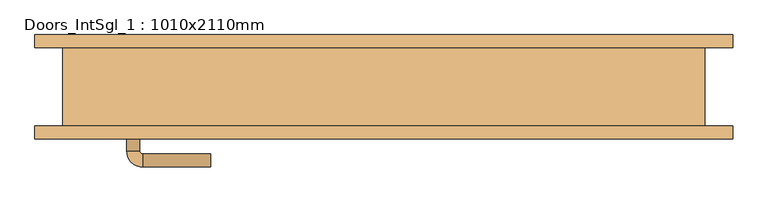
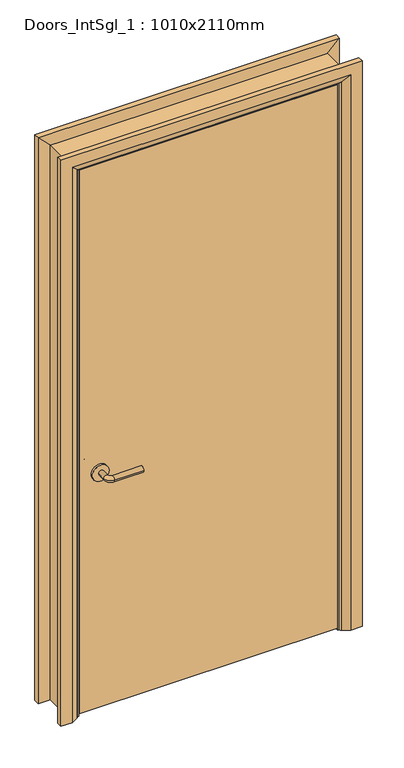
"""IFC4 building model written with IfcOpenShell, lengths in millimetres: door geometry, Doors_IntSgl_1 : 1010x2110mm."""

import ifcopenshell
import ifcopenshell.guid

model = None  # the IFC model being written
_history = None  # IfcOwnerHistory: only IFC2X3 demands one
_inside = {}  # id of a spatial element -> (the spatial element, [elements in it])
_under = {}  # id of a project, library or spatial element -> (it, [spatial elements below it])
_declared = {}  # id of a project -> (the project, [libraries it declares])
_typed = {}  # id of a type object -> (the type object, [elements of that type])
_made_of = {}  # id of a material, layer set ... -> (it, [elements and type objects made of it])


def new_model(schema):
    """Start an empty IFC model of exactly this schema.

    Asked for "IFC4X3", IfcOpenShell would pick the latest addendum, in which some entities
    have other attributes; the version numbers below select the first issue.
    IFC2X3 requires an IfcOwnerHistory on every rooted entity: one is made here for all.
    """
    global model, _history
    if schema == "IFC4X3":
        model = ifcopenshell.file(schema_version=(4, 3, 0, 0))
    else:
        model = ifcopenshell.file(schema=schema)
    _inside.clear()
    _under.clear()
    _declared.clear()
    _typed.clear()
    _made_of.clear()
    _history = None
    if model.schema == "IFC2X3":
        org = make("IfcOrganization", Name="unknown")
        user = make(
            "IfcPersonAndOrganization",
            ThePerson=make("IfcPerson", FamilyName="unknown"),
            TheOrganization=org,
        )
        app = make(
            "IfcApplication",
            ApplicationDeveloper=org,
            Version="unknown",
            ApplicationFullName="unknown",
            ApplicationIdentifier="unknown",
        )
        _history = make(
            "IfcOwnerHistory",
            OwningUser=user,
            OwningApplication=app,
            ChangeAction="ADDED",
            CreationDate=0,
        )
    return model


def make(cls, **values):
    """One entity of the class cls with the attributes given. An attribute that is None is left unset."""
    return model.create_entity(
        cls, **{name: value for name, value in values.items() if value is not None}
    )


def rooted(cls, **values):
    """An entity with a GlobalId (a new one), such as an element, a storey or a relation."""
    return make(cls, GlobalId=ifcopenshell.guid.new(), OwnerHistory=_history, **values)


def si_unit(unit_type, name, prefix=None):
    """IfcSIUnit, for example si_unit("LENGTHUNIT", "METRE", prefix="MILLI")."""
    return make("IfcSIUnit", UnitType=unit_type, Prefix=prefix, Name=name)


def assignment(units):
    """IfcUnitAssignment: the units of a project."""
    return None if units is None else make("IfcUnitAssignment", Units=units)


def point(xyz):
    """IfcCartesianPoint."""
    return None if xyz is None else make("IfcCartesianPoint", Coordinates=xyz)


def direction(xyz):
    """IfcDirection."""
    return None if xyz is None else make("IfcDirection", DirectionRatios=xyz)


def frame(location, z_axis=None, x_axis=None):
    """IfcAxis2Placement3D, a coordinate frame: its origin and axes. An axis left out is left unset."""
    return make(
        "IfcAxis2Placement3D",
        Location=point(location),
        Axis=direction(z_axis),
        RefDirection=direction(x_axis),
    )


def frame_2d(location, x_axis=None):
    """IfcAxis2Placement2D, a coordinate frame in the plane: its origin and x axis."""
    return make(
        "IfcAxis2Placement2D", Location=point(location), RefDirection=direction(x_axis)
    )


def origin():
    """The frame at (0, 0, 0) with its axes left unset."""
    return frame((0.0, 0.0, 0.0))


def place(relative_to, where):
    """IfcLocalPlacement: puts the frame where relative to a parent placement (None: the world)."""
    return make(
        "IfcLocalPlacement", PlacementRelTo=relative_to, RelativePlacement=where
    )


def context(
    kind, dimensions, precision=None, world=None, true_north=None, identifier=None
):
    """IfcGeometricRepresentationContext, for example the 3D "Model" context."""
    return make(
        "IfcGeometricRepresentationContext",
        ContextIdentifier=identifier,
        ContextType=kind,
        CoordinateSpaceDimension=dimensions,
        Precision=precision,
        WorldCoordinateSystem=world,
        TrueNorth=true_north,
    )


def project(units=None, contexts=None):
    """IfcProject with its units and contexts."""
    return rooted(
        "IfcProject",
        Name="project",
        RepresentationContexts=contexts,
        UnitsInContext=assignment(units),
    )


def spatial(cls, under=None, at=None, **own):
    """A site, building, storey or space (cls), placed at a placement, below another one or the project."""
    s = rooted(cls, ObjectPlacement=at, **own)
    if under is not None:
        _under.setdefault(under.id(), (under, []))[1].append(s)
    return s


def polyline(points):
    """IfcPolyline through the points."""
    return make("IfcPolyline", Points=[point(p) for p in points])


def circle_curve(where, radius):
    """IfcCircle in the frame where."""
    return make("IfcCircle", Position=where, Radius=radius)


def ellipse_curve(where, semi_axis1, semi_axis2):
    """IfcEllipse in the frame where."""
    return make(
        "IfcEllipse", Position=where, SemiAxis1=semi_axis1, SemiAxis2=semi_axis2
    )


def trimmed(basis, trim1, trim2, sense, master):
    """IfcTrimmedCurve: the piece of a basis curve between two trims."""
    return make(
        "IfcTrimmedCurve",
        BasisCurve=basis,
        Trim1=trim1,
        Trim2=trim2,
        SenseAgreement=sense,
        MasterRepresentation=master,
    )


def segment(curve, same_sense, transition):
    """IfcCompositeCurveSegment."""
    return make(
        "IfcCompositeCurveSegment",
        Transition=transition,
        SameSense=same_sense,
        ParentCurve=curve,
    )


def composite_curve(segments, self_intersect=None):
    """IfcCompositeCurve: segments joined end to end."""
    return make("IfcCompositeCurve", Segments=segments, SelfIntersect=self_intersect)


def outline(outer, holes=None, kind="AREA"):
    """IfcArbitraryClosedProfileDef: a profile drawn as a closed curve; with holes, ...WithVoids."""
    if holes is None:
        return make("IfcArbitraryClosedProfileDef", ProfileType=kind, OuterCurve=outer)
    return make(
        "IfcArbitraryProfileDefWithVoids",
        ProfileType=kind,
        OuterCurve=outer,
        InnerCurves=holes,
    )


def extrude(swept, where, along, depth):
    """IfcExtrudedAreaSolid: the profile swept, set in the frame where, extruded along a direction by depth."""
    return make(
        "IfcExtrudedAreaSolid",
        SweptArea=swept,
        Position=where,
        ExtrudedDirection=direction(along),
        Depth=depth,
    )


def faces_of(points, faces, orient=None, outer=None):
    """IfcFace entities. A face is a list of loops; a loop is a list of indices into points, from 0.

    orient and outer hold one flag for each loop. By default every Orientation is true, the
    first loop of a face is its IfcFaceOuterBound and the others are IfcFaceBound.
    """
    made = []
    for i, loops in enumerate(faces):
        bounds = []
        for j, loop in enumerate(loops):
            is_outer = j == 0 if outer is None else outer[i][j]
            bounds.append(
                make(
                    "IfcFaceOuterBound" if is_outer else "IfcFaceBound",
                    Bound=make("IfcPolyLoop", Polygon=[points[k] for k in loop]),
                    Orientation=True if orient is None else orient[i][j],
                )
            )
        made.append(make("IfcFace", Bounds=bounds))
    return made


def faceted_brep(points, faces, orient=None, outer=None, voids=None):
    """IfcFacetedBrep: a solid bounded by flat faces; with voids (closed shells), ...WithVoids."""
    shared = [point(p) for p in points]
    hull = make("IfcClosedShell", CfsFaces=faces_of(shared, faces, orient, outer))
    if voids is None:
        return make("IfcFacetedBrep", Outer=hull)
    return make(
        "IfcFacetedBrepWithVoids",
        Outer=hull,
        Voids=[
            make(cls, CfsFaces=faces_of(shared, fs, o, b)) for cls, fs, o, b in voids
        ],
    )


def shape(context_of_items, identifier, shape_type, items):
    """IfcShapeRepresentation: the items that make up one representation, for example the "Body"."""
    return make(
        "IfcShapeRepresentation",
        ContextOfItems=context_of_items,
        RepresentationIdentifier=identifier,
        RepresentationType=shape_type,
        Items=items,
    )


def source(mapping_origin, context_of_items, identifier, shape_type, items):
    """IfcRepresentationMap: a shape defined once, which mapped items show again and again."""
    return make(
        "IfcRepresentationMap",
        MappingOrigin=mapping_origin,
        MappedRepresentation=shape(context_of_items, identifier, shape_type, items),
    )


def transform(
    local_origin,
    x_axis=None,
    y_axis=None,
    z_axis=None,
    scale=None,
    scale2=None,
    scale3=None,
    uniform=True,
):
    """IfcCartesianTransformationOperator3D, or its non-uniform kind. x_axis, y_axis, z_axis: its Axis1, 2, 3."""
    if uniform:
        return make(
            "IfcCartesianTransformationOperator3D",
            Axis1=direction(x_axis),
            Axis2=direction(y_axis),
            LocalOrigin=point(local_origin),
            Scale=scale,
            Axis3=direction(z_axis),
        )
    return make(
        "IfcCartesianTransformationOperator3DnonUniform",
        Axis1=direction(x_axis),
        Axis2=direction(y_axis),
        LocalOrigin=point(local_origin),
        Scale=scale,
        Axis3=direction(z_axis),
        Scale2=scale2,
        Scale3=scale3,
    )


def mapped(mapping_source, mapping_target):
    """IfcMappedItem: shows the shape of a source again, moved by a transform."""
    return make(
        "IfcMappedItem", MappingSource=mapping_source, MappingTarget=mapping_target
    )


def made_of(thing, what):
    """Note that an element or type object is made of a material, layer set ...; save() writes the relation."""
    if what is not None:
        _made_of.setdefault(what.id(), (what, []))[1].append(thing)
    return thing


def element(
    cls,
    number,
    at=None,
    inside=None,
    cuts=None,
    type_object=None,
    material=None,
    context=None,
    identifier="Body",
    shape_type=None,
    held_by="IfcProductDefinitionShape",
    body=None,
    shapes=None,
    **own,
):
    """One element of the class cls, such as IfcWall. Its Tag is "e" and its number.

    at: its placement. inside: the storey or other place that contains it. cuts: it is an
    opening in that element (IfcRelVoidsElement). A single representation is given by context,
    identifier, shape_type and body (its items); several are given by shapes. held_by: the class
    of the entity that holds the representations. save() writes the other relations.
    """
    e = rooted(cls, Tag="e%d" % number, ObjectPlacement=at, **own)
    if body is not None:
        shapes = [shape(context, identifier, shape_type, body)]
    if shapes is not None:
        e.Representation = make(held_by, Representations=shapes)
    if inside is not None:
        _inside.setdefault(inside.id(), (inside, []))[1].append(e)
    if cuts is not None:
        rooted(
            "IfcRelVoidsElement", RelatingBuildingElement=cuts, RelatedOpeningElement=e
        )
    if type_object is not None:
        _typed.setdefault(type_object.id(), (type_object, []))[1].append(e)
    return made_of(e, material)


def aggregate(whole, parts):
    """IfcRelAggregates: a whole, such as a stair, and the parts it consists of."""
    return rooted("IfcRelAggregates", RelatingObject=whole, RelatedObjects=parts)


def save(model, path):
    """Write the relations noted so far, then the file.

    IfcRelAggregates (storeys below a building ...), IfcRelContainedInSpatialStructure (elements
    in a storey), IfcRelDefinesByType, IfcRelAssociatesMaterial and IfcRelDeclares: one each for
    every whole, place, type object, material and project.
    """
    for whole, parts in _under.values():
        aggregate(whole, parts)
    for where, things in _inside.values():
        rooted(
            "IfcRelContainedInSpatialStructure",
            RelatedElements=things,
            RelatingStructure=where,
        )
    for kind, things in _typed.values():
        rooted("IfcRelDefinesByType", RelatedObjects=things, RelatingType=kind)
    for what, things in _made_of.values():
        rooted("IfcRelAssociatesMaterial", RelatedObjects=things, RelatingMaterial=what)
    for by, libraries in _declared.values():
        rooted("IfcRelDeclares", RelatingContext=by, RelatedDefinitions=libraries)
    model.write(path)


def plane_surface(at):
    """IfcPlane: the flat surface through the origin of the frame at, square to its z axis."""
    return make("IfcPlane", Position=at)


def cylinder_surface(at, radius):
    """IfcCylindricalSurface: all points at the distance radius from the z axis of the frame at."""
    return make("IfcCylindricalSurface", Position=at, Radius=radius)


def revolved_surface(curve, axis_point, axis_direction):
    """IfcSurfaceOfRevolution: the curve turned about the line through axis_point along axis_direction."""
    return make(
        "IfcSurfaceOfRevolution",
        SweptCurve=make("IfcArbitraryOpenProfileDef", ProfileType="CURVE", Curve=curve),
        AxisPosition=make("IfcAxis1Placement", Location=point(axis_point), Axis=direction(axis_direction)),
    )


def advanced_brep(points, edges, surfaces, faces):
    """IfcAdvancedBrep: a solid bounded by faces that lie on surfaces and meet in shared edges.

    An edge is (start, end): straight between two places in points (the first is 0);
    or (start, end, curve); or (start, end, curve, False) where it runs against its curve.
    A face is (place in surfaces, loops), or (place, loops, False) where it looks against
    its surface's normal. A loop lists edges by number (the first is 1), with a minus sign
    where the edge is run from its end to its start. The first loop is the outer one.
    """
    corners = [point(p) for p in points]
    vertices = [make("IfcVertexPoint", VertexGeometry=c) for c in corners]
    made = []
    for start, end, *more in edges:
        made.append(
            make(
                "IfcEdgeCurve",
                EdgeStart=vertices[start],
                EdgeEnd=vertices[end],
                EdgeGeometry=more[0] if more else make("IfcPolyline", Points=[corners[start], corners[end]]),
                SameSense=more[1] if len(more) > 1 else True,
            )
        )
    hull = []
    for where, loops, *sense in faces:
        bounds = []
        for j, loop in enumerate(loops):
            ring = [make("IfcOrientedEdge", EdgeElement=made[abs(k) - 1], Orientation=k > 0) for k in loop]
            bounds.append(
                make(
                    "IfcFaceOuterBound" if j == 0 else "IfcFaceBound",
                    Bound=make("IfcEdgeLoop", EdgeList=ring),
                    Orientation=True,
                )
            )
        hull.append(make("IfcAdvancedFace", Bounds=bounds, FaceSurface=surfaces[where], SameSense=sense[0] if sense else True))
    return make("IfcAdvancedBrep", Outer=make("IfcClosedShell", CfsFaces=hull))


def doors_intsgl_1_1010x2110mm_0e4fc7ca(model_context):
    return source(origin(), model_context, "Body", "SolidModel", [
        advanced_brep(
        [(-398.0, -14.75, 900.0), (-378.0, -14.75, 900.0), (-398.0, 15.25, 900.0), (-378.0, 15.25, 900.0), (-373.0, 20.25, 900.0), (-373.0, 40.25, 900.0), (-268.0, 40.25, 900.0), (-268.0, 20.25, 900.0)],
        [
            (0, 1, circle_curve(frame((-388.0, -14.75, 900.0), z_axis=(0.0, -1.0, 0.0), x_axis=(1.0, 0.0, 0.0)), 10.0)),
            (1, 0, circle_curve(frame((-388.0, -14.75, 900.0), z_axis=(0.0, -1.0, 0.0), x_axis=(1.0, 0.0, 0.0)), 10.0)),
            (0, 2),
            (2, 3, circle_curve(frame((-388.0, 15.25, 900.0), z_axis=(0.0, -1.0, 0.0), x_axis=(1.0, 0.0, 0.0)), 10.0)),
            (3, 1),
            (3, 2, circle_curve(frame((-388.0, 15.25, 900.0), z_axis=(0.0, -1.0, 0.0), x_axis=(1.0, 0.0, 0.0)), 10.0)),
            (4, 3, circle_curve(frame((-373.0, 15.25, 900.0), z_axis=(0.0, 0.0, 1.0), x_axis=(-1.0, 0.0, 0.0)), 5.0)),
            (2, 5, circle_curve(frame((-373.0, 15.25, 900.0), z_axis=(0.0, 0.0, -1.0), x_axis=(-1.0, 0.0, 0.0)), 25.0)),
            (5, 4, circle_curve(frame((-373.0, 30.25, 900.0), z_axis=(-1.0, 0.0, 0.0), x_axis=(0.0, -1.0, 0.0)), 10.0)),
            (4, 5, circle_curve(frame((-373.0, 30.25, 900.0), z_axis=(-1.0, 0.0, 0.0), x_axis=(0.0, -1.0, 0.0)), 10.0)),
            (6, 7, circle_curve(frame((-268.0, 30.25, 900.0), z_axis=(1.0, 0.0, 0.0), x_axis=(0.0, -1.0, 0.0)), 10.0)),
            (7, 6, circle_curve(frame((-268.0, 30.25, 900.0), z_axis=(1.0, 0.0, 0.0), x_axis=(0.0, -1.0, 0.0)), 10.0)),
            (5, 6),
            (7, 4),
        ],
        [
            plane_surface(frame((-388.0, -14.75, 900.0), z_axis=(0.0, -1.0, 0.0), x_axis=(0.0, 0.0, 1.0))),
            cylinder_surface(frame((-388.0, -14.75, 900.0), z_axis=(0.0, -1.0, 0.0), x_axis=(1.0, 0.0, 0.0)), 10.0),
            revolved_surface(trimmed(ellipse_curve(frame((-388.0, 15.25, 900.0), z_axis=(0.0, -1.0, 0.0), x_axis=(1.0, 0.0, 0.0)), 10.0, 10.0), [point((-398.0, 15.25, 900.0))], [point((-378.0, 15.25, 900.0))], True, "CARTESIAN"), (-373.0, 15.25, 900.0), (0.0, 0.0, -1.0)),
            revolved_surface(trimmed(ellipse_curve(frame((-388.0, 15.25, 900.0), z_axis=(0.0, -1.0, 0.0), x_axis=(1.0, 0.0, 0.0)), 10.0, 10.0), [point((-378.0, 15.25, 900.0))], [point((-398.0, 15.25, 900.0))], True, "CARTESIAN"), (-373.0, 15.25, 900.0), (0.0, 0.0, -1.0)),
            plane_surface(frame((-268.0, 30.25, 900.0), z_axis=(1.0, 0.0, 0.0), x_axis=(0.0, 0.0, 1.0))),
            cylinder_surface(frame((-373.0, 30.25, 900.0), z_axis=(-1.0, 0.0, 0.0), x_axis=(0.0, -1.0, 0.0)), 10.0),
        ],
        [
            (0, [[1, 2]]),
            (1, [[-1, 3, 4, 5]]),
            (1, [[-2, -5, 6, -3]]),
            (2, [[7, -4, 8, 9]]),
            (3, [[-8, -6, -7, 10]]),
            (4, [[11, 12]]),
            (5, [[-9, 13, -12, 14]]),
            (5, [[-10, -14, -11, -13]]),
        ],
    ),
        extrude(outline(composite_curve([segment(trimmed(circle_curve(frame_2d((900.0, -390.5)), 30.0), [point((900.0, -420.5))], [point((900.0, -360.5))], False, "CARTESIAN"), True, "CONTINUOUS"), segment(trimmed(circle_curve(frame_2d((900.0, -390.5)), 30.0), [point((900.0, -360.5))], [point((900.0, -420.5))], False, "CARTESIAN"), True, "CONTINUOUS")], self_intersect=False)), frame((0.0, -22.75, 0.0), z_axis=(0.0, 1.0, 0.0), x_axis=(0.0, 0.0, 1.0)), (0.0, 0.0, 1.0), 8.0),
        advanced_brep(
        [(-398.0, -68.75, 900.0), (-378.0, -68.75, 900.0), (-378.0, -98.75, 900.0), (-398.0, -98.75, 900.0), (-373.0, -103.75, 900.0), (-373.0, -123.75, 900.0), (-268.0, -123.75, 900.0), (-268.0, -103.75, 900.0)],
        [
            (0, 1, circle_curve(frame((-388.0, -68.75, 900.0), z_axis=(0.0, 1.0, 0.0), x_axis=(1.0, 0.0, 0.0)), 10.0)),
            (1, 0, circle_curve(frame((-388.0, -68.75, 900.0), z_axis=(0.0, 1.0, 0.0), x_axis=(1.0, 0.0, 0.0)), 10.0)),
            (1, 2),
            (2, 3, circle_curve(frame((-388.0, -98.75, 900.0), z_axis=(0.0, 1.0, 0.0), x_axis=(1.0, 0.0, 0.0)), 10.0)),
            (3, 0),
            (3, 2, circle_curve(frame((-388.0, -98.75, 900.0), z_axis=(0.0, 1.0, 0.0), x_axis=(1.0, 0.0, 0.0)), 10.0)),
            (4, 5, circle_curve(frame((-373.0, -113.75, 900.0), z_axis=(-1.0, 0.0, 0.0), x_axis=(0.0, 1.0, 0.0)), 10.0)),
            (5, 3, circle_curve(frame((-373.0, -98.75, 900.0), z_axis=(0.0, 0.0, -1.0), x_axis=(-1.0, 0.0, 0.0)), 25.0)),
            (2, 4, circle_curve(frame((-373.0, -98.75, 900.0), z_axis=(0.0, 0.0, 1.0), x_axis=(-1.0, 0.0, 0.0)), 5.0)),
            (5, 4, circle_curve(frame((-373.0, -113.75, 900.0), z_axis=(-1.0, 0.0, 0.0), x_axis=(0.0, 1.0, 0.0)), 10.0)),
            (6, 7, circle_curve(frame((-268.0, -113.75, 900.0), z_axis=(1.0, 0.0, 0.0), x_axis=(0.0, 1.0, 0.0)), 10.0)),
            (7, 6, circle_curve(frame((-268.0, -113.75, 900.0), z_axis=(1.0, 0.0, 0.0), x_axis=(0.0, 1.0, 0.0)), 10.0)),
            (4, 7),
            (6, 5),
        ],
        [
            plane_surface(frame((-388.0, -68.75, 900.0), z_axis=(0.0, 1.0, 0.0), x_axis=(0.0, 0.0, 1.0))),
            cylinder_surface(frame((-388.0, -68.75, 900.0), z_axis=(0.0, 1.0, 0.0), x_axis=(1.0, 0.0, 0.0)), 10.0),
            revolved_surface(trimmed(ellipse_curve(frame((-388.0, -98.75, 900.0), z_axis=(0.0, -1.0, 0.0), x_axis=(1.0, 0.0, 0.0)), 10.0, 10.0), [point((-398.0, -98.75, 900.0))], [point((-378.0, -98.75, 900.0))], True, "CARTESIAN"), (-373.0, -98.75, 900.0), (0.0, 0.0, -1.0)),
            revolved_surface(trimmed(ellipse_curve(frame((-388.0, -98.75, 900.0), z_axis=(0.0, -1.0, 0.0), x_axis=(1.0, 0.0, 0.0)), 10.0, 10.0), [point((-378.0, -98.75, 900.0))], [point((-398.0, -98.75, 900.0))], True, "CARTESIAN"), (-373.0, -98.75, 900.0), (0.0, 0.0, -1.0)),
            plane_surface(frame((-268.0, -113.75, 900.0), z_axis=(1.0, 0.0, 0.0), x_axis=(0.0, 0.0, 1.0))),
            cylinder_surface(frame((-373.0, -113.75, 900.0), z_axis=(-1.0, 0.0, 0.0), x_axis=(0.0, 1.0, 0.0)), 10.0),
        ],
        [
            (0, [[1, 2]]),
            (1, [[3, 4, 5, -2]]),
            (1, [[-5, 6, -3, -1]]),
            (2, [[7, 8, -4, 9]]),
            (3, [[10, -9, -6, -8]]),
            (4, [[11, 12]]),
            (5, [[13, -11, 14, -7]]),
            (5, [[-14, -12, -13, -10]]),
        ],
    ),
        extrude(outline(composite_curve([segment(trimmed(circle_curve(frame_2d((900.0, -390.5)), 30.0), [point((900.0, -420.5))], [point((900.0, -360.5))], False, "CARTESIAN"), True, "CONTINUOUS"), segment(trimmed(circle_curve(frame_2d((900.0, -390.5)), 30.0), [point((900.0, -360.5))], [point((900.0, -420.5))], False, "CARTESIAN"), True, "CONTINUOUS")], self_intersect=False)), frame((0.0, -68.75, 0.0), z_axis=(0.0, 1.0, 0.0), x_axis=(0.0, 0.0, 1.0)), (0.0, 0.0, 1.0), 8.0),
        extrude(outline(polyline([(463.0, -22.75), (463.0, -60.75), (-463.0, -60.75), (-463.0, -22.75), (463.0, -22.75)])), frame((0.0, 0.0, 8.0), z_axis=(0.0, 0.0, 1.0), x_axis=(1.0, 0.0, 0.0)), (0.0, 0.0, 1.0), 2060.0),
        advanced_brep(
        [(540.0, -80.75, 0.0), (500.0, -80.75, 0.0), (474.0, -66.75, 0.0), (470.0, -60.75, 0.0), (540.0, -60.75, 0.0), (540.0, -60.75, 2145.0), (540.0, -80.75, 2145.0), (470.0, -60.75, 2075.0), (-470.0, -60.75, 2075.0), (-470.0, -60.75, 0.0), (-540.0, -60.75, 0.0), (-540.0, -60.75, 2145.0), (474.0, -66.75, 2079.0), (500.0, -80.75, 2105.0), (-540.0, -80.75, 2145.0), (-540.0, -80.75, 0.0), (-500.0, -80.75, 0.0), (-500.0, -80.75, 2105.0), (-474.0, -66.75, 0.0), (-474.0, -66.75, 2079.0)],
        [
            (0, 1),
            (1, 2),
            (2, 3, circle_curve(frame((478.0, -59.75, 0.0), z_axis=(0.0, 0.0, -1.0), x_axis=(1.0, 0.0, 0.0)), 8.0622577)),
            (3, 4),
            (4, 0),
            (4, 5),
            (5, 6),
            (6, 0),
            (3, 7),
            (7, 8),
            (8, 9),
            (9, 10),
            (10, 11),
            (11, 5),
            (2, 12),
            (12, 7, ellipse_curve(frame((478.0, -59.75, 2083.0), z_axis=(0.7071067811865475, 0.0, -0.7071067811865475), x_axis=(-0.7071067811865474, 0.0, -0.7071067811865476)), 11.4017543, 8.0622577)),
            (1, 13),
            (13, 12),
            (6, 14),
            (14, 15),
            (15, 16),
            (16, 17),
            (17, 13),
            (10, 15),
            (14, 11),
            (9, 18, circle_curve(frame((-478.0, -59.75, 0.0), z_axis=(0.0, 0.0, -1.0), x_axis=(-1.0, 0.0, 0.0)), 8.0622577)),
            (18, 16),
            (19, 18),
            (8, 19, ellipse_curve(frame((-478.0, -59.75, 2083.0), z_axis=(-0.7071067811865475, 0.0, -0.7071067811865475), x_axis=(-0.7071067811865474, 0.0, 0.7071067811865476)), 11.4017543, 8.0622577)),
            (19, 17),
            (12, 19),
        ],
        [
            plane_surface(frame((470.0, -60.75, 0.0), z_axis=(0.0, 0.0, -1.0), x_axis=(0.0, 1.0, 0.0))),
            plane_surface(frame((540.0, -80.75, 0.0), z_axis=(1.0, 0.0, 0.0), x_axis=(0.0, 0.0, 1.0))),
            plane_surface(frame((540.0, -60.75, 0.0), z_axis=(0.0, 1.0, 0.0), x_axis=(0.0, 0.0, 1.0))),
            cylinder_surface(frame((478.0, -59.75, 0.0), z_axis=(0.0, 0.0, -1.0), x_axis=(1.0, 0.0, 0.0)), 8.0622577),
            plane_surface(frame((474.0, -66.75, 0.0), z_axis=(-0.4740998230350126, -0.880471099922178, 0.0), x_axis=(0.0, 0.0, 1.0))),
            plane_surface(frame((500.0, -80.75, 0.0), z_axis=(0.0, -1.0, 0.0), x_axis=(0.0, 0.0, 1.0))),
            plane_surface(frame((-540.0, -80.75, 2145.0), z_axis=(-1.0, 0.0, 0.0), x_axis=(0.0, 0.0, -1.0))),
            plane_surface(frame((-470.0, -60.75, 0.0), z_axis=(0.0, 0.0, -1.0), x_axis=(0.0, 1.0, 0.0))),
            cylinder_surface(frame((-478.0, -59.75, 2075.0), z_axis=(0.0, 0.0, 1.0), x_axis=(-1.0, 0.0, 0.0)), 8.0622577),
            plane_surface(frame((-474.0, -66.75, 2079.0), z_axis=(0.47409982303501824, -0.8804710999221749, 0.0), x_axis=(0.0, 0.0, -1.0))),
            plane_surface(frame((540.0, -80.75, 2145.0), z_axis=(0.0, 0.0, 1.0), x_axis=(-1.0, 0.0, 0.0))),
            cylinder_surface(frame((470.0, -59.75, 2083.0), z_axis=(1.0, 0.0, 0.0), x_axis=(0.0, 0.0, 1.0)), 8.0622577),
            plane_surface(frame((474.0, -66.75, 2079.0), z_axis=(0.0, -0.8804710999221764, -0.4740998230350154), x_axis=(-1.0, 0.0, 0.0))),
        ],
        [
            (0, [[1, 2, 3, 4, 5]]),
            (1, [[6, 7, 8, -5]]),
            (2, [[9, 10, 11, 12, 13, 14, -6, -4]]),
            (3, [[15, 16, -9, -3]]),
            (4, [[17, 18, -15, -2]]),
            (5, [[-8, 19, 20, 21, 22, 23, -17, -1]]),
            (6, [[-13, 24, -20, 25]]),
            (7, [[-24, -12, 26, 27, -21]]),
            (8, [[28, -26, -11, 29]]),
            (9, [[-22, -27, -28, 30]]),
            (10, [[-14, -25, -19, -7]]),
            (11, [[31, -29, -10, -16]]),
            (12, [[-23, -30, -31, -18]]),
        ],
    ),
        extrude(outline(polyline([(0.0, -446.0), (2051.0, -446.0), (2051.0, 446.0), (0.0, 446.0), (0.0, 465.0), (2070.0, 465.0), (2070.0, -465.0), (0.0, -465.0), (0.0, -446.0)])), frame((0.0, -20.75, 0.0), z_axis=(0.0, 1.0, 0.0), x_axis=(0.0, 0.0, 1.0)), (0.0, 0.0, 1.0), 32.0),
        advanced_brep(
        [(-540.0, 80.75, 0.0), (-500.0, 80.75, 0.0), (-474.0, 66.75, 0.0), (-470.0, 60.75, 0.0), (-540.0, 60.75, 0.0), (-540.0, 60.75, 2145.0), (-540.0, 80.75, 2145.0), (-470.0, 60.75, 2075.0), (-474.0, 66.75, 2079.0), (-500.0, 80.75, 2105.0), (540.0, 80.75, 0.0), (540.0, 60.75, 0.0), (470.0, 60.75, 0.0), (474.0, 66.75, 0.0), (500.0, 80.75, 0.0), (540.0, 80.75, 2145.0), (500.0, 80.75, 2105.0), (474.0, 66.75, 2079.0), (470.0, 60.75, 2075.0), (540.0, 60.75, 2145.0)],
        [
            (0, 1),
            (1, 2),
            (2, 3, circle_curve(frame((-478.0, 59.75, 0.0), z_axis=(0.0, 0.0, -1.0), x_axis=(-1.0, 0.0, 0.0)), 8.0622577)),
            (3, 4),
            (4, 0),
            (4, 5),
            (5, 6),
            (6, 0),
            (3, 7),
            (7, 5),
            (2, 8),
            (8, 7, ellipse_curve(frame((-478.0, 59.75, 2083.0), z_axis=(-0.7071067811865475, 0.0, -0.7071067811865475), x_axis=(0.7071067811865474, 0.0, -0.7071067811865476)), 11.4017543, 8.0622577)),
            (1, 9),
            (9, 8),
            (6, 9),
            (10, 11),
            (11, 12),
            (12, 13, circle_curve(frame((478.0, 59.75, 0.0), z_axis=(0.0, 0.0, -1.0), x_axis=(1.0, 0.0, 0.0)), 8.0622577)),
            (13, 14),
            (14, 10),
            (15, 10),
            (14, 16),
            (16, 15),
            (13, 17),
            (17, 16),
            (12, 18),
            (18, 17, ellipse_curve(frame((478.0, 59.75, 2083.0), z_axis=(0.7071067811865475, 0.0, -0.7071067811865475), x_axis=(0.7071067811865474, 0.0, 0.7071067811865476)), 11.4017543, 8.0622577)),
            (11, 19),
            (19, 18),
            (15, 19),
            (5, 19),
            (15, 6),
            (7, 18),
            (8, 17),
            (9, 16),
        ],
        [
            plane_surface(frame((-470.0, 133.5510989, 0.0), z_axis=(0.0, 0.0, -1.0), x_axis=(1.0, 0.0, 0.0))),
            plane_surface(frame((-540.0, 80.75, 0.0), z_axis=(-1.0, 0.0, 0.0), x_axis=(0.0, 0.0, 1.0))),
            plane_surface(frame((-540.0, 60.75, 0.0), z_axis=(0.0, -1.0, 0.0), x_axis=(0.0, 0.0, 1.0))),
            cylinder_surface(frame((-478.0, 59.75, 0.0), z_axis=(0.0, 0.0, -1.0), x_axis=(-1.0, 0.0, 0.0)), 8.0622577),
            plane_surface(frame((-474.0, 66.75, 0.0), z_axis=(0.4740998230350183, 0.8804710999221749, 0.0), x_axis=(0.0, 0.0, 1.0))),
            plane_surface(frame((-500.0, 80.75, 0.0), z_axis=(0.0, 1.0, 0.0), x_axis=(0.0, 0.0, 1.0))),
            plane_surface(frame((470.0, 133.5510989, 0.0), z_axis=(0.0, 0.0, -1.0), x_axis=(-1.0, 0.0, 0.0))),
            plane_surface(frame((500.0, 80.75, 2105.0), z_axis=(0.0, 1.0, 0.0), x_axis=(0.0, 0.0, -1.0))),
            plane_surface(frame((474.0, 66.75, 2079.0), z_axis=(-0.4740998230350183, 0.8804710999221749, 0.0), x_axis=(0.0, 0.0, -1.0))),
            cylinder_surface(frame((478.0, 59.75, 2075.0), z_axis=(0.0, 0.0, 1.0), x_axis=(1.0, 0.0, 0.0)), 8.0622577),
            plane_surface(frame((540.0, 60.75, 2145.0), z_axis=(0.0, -1.0, 0.0), x_axis=(0.0, 0.0, -1.0))),
            plane_surface(frame((540.0, 80.75, 2145.0), z_axis=(1.0, 0.0, 0.0), x_axis=(0.0, 0.0, -1.0))),
            plane_surface(frame((-540.0, 80.75, 2145.0), z_axis=(0.0, 0.0, 1.0), x_axis=(1.0, 0.0, 0.0))),
            plane_surface(frame((-540.0, 60.75, 2145.0), z_axis=(0.0, -1.0, 0.0), x_axis=(1.0, 0.0, 0.0))),
            cylinder_surface(frame((-470.0, 59.75, 2083.0), z_axis=(-1.0, 0.0, 0.0), x_axis=(0.0, 0.0, 1.0)), 8.0622577),
            plane_surface(frame((-474.0, 66.75, 2079.0), z_axis=(0.0, 0.8804710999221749, -0.4740998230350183), x_axis=(1.0, 0.0, 0.0))),
            plane_surface(frame((-500.0, 80.75, 2105.0), z_axis=(0.0, 1.0, 0.0), x_axis=(1.0, 0.0, 0.0))),
        ],
        [
            (0, [[1, 2, 3, 4, 5]]),
            (1, [[6, 7, 8, -5]]),
            (2, [[9, 10, -6, -4]]),
            (3, [[11, 12, -9, -3]]),
            (4, [[13, 14, -11, -2]]),
            (5, [[-8, 15, -13, -1]]),
            (6, [[16, 17, 18, 19, 20]]),
            (7, [[21, -20, 22, 23]]),
            (8, [[-22, -19, 24, 25]]),
            (9, [[-24, -18, 26, 27]]),
            (10, [[-26, -17, 28, 29]]),
            (11, [[-28, -16, -21, 30]]),
            (12, [[31, -30, 32, -7]]),
            (13, [[33, -29, -31, -10]]),
            (14, [[34, -27, -33, -12]]),
            (15, [[35, -25, -34, -14]]),
            (16, [[-32, -23, -35, -15]]),
        ],
    ),
        faceted_brep([(-465.0, -60.75, 0.0), (-497.0, -60.75, 0.0), (-497.0, 60.75, 0.0), (-465.0, 60.75, 0.0), (-465.0, 60.75, 2070.0), (-465.0, -60.75, 2070.0), (-497.0, 60.75, 2102.0), (-497.0, -60.75, 2102.0), (465.0, -60.75, 0.0), (465.0, 60.75, 0.0), (497.0, 60.75, 0.0), (497.0, -60.75, 0.0), (465.0, -60.75, 2070.0), (497.0, -60.75, 2102.0), (497.0, 60.75, 2102.0), (465.0, 60.75, 2070.0)], [[[0, 1, 2, 3]], [[3, 4, 5, 0]], [[2, 6, 4, 3]], [[1, 7, 6, 2]], [[0, 5, 7, 1]], [[8, 9, 10, 11]], [[12, 8, 11, 13]], [[13, 11, 10, 14]], [[14, 10, 9, 15]], [[15, 9, 8, 12]], [[4, 15, 12, 5]], [[6, 14, 15, 4]], [[7, 13, 14, 6]], [[5, 12, 13, 7]]]),
    ])


if __name__ == "__main__":
    model = new_model("IFC4")
    model_context = context("Model", 3, world=origin())
    ifc_project = project(units=[si_unit("LENGTHUNIT", "METRE", prefix="MILLI")], contexts=[model_context])
    site = spatial("IfcSite", under=ifc_project)
    building = spatial("IfcBuilding", under=site)
    placement = place(None, origin())
    doors_intsgl_1_1010x2110mm_shape = doors_intsgl_1_1010x2110mm_0e4fc7ca(model_context)
    element("IfcDoor", 1, ObjectType="Doors_IntSgl_1 : 1010x2110mm", at=placement, inside=building, context=model_context, shape_type="MappedRepresentation", body=[
        mapped(doors_intsgl_1_1010x2110mm_shape, transform((0.0, 0.0, 0.0), x_axis=(1.0, 0.0, 0.0), y_axis=(0.0, 1.0, 0.0), z_axis=(0.0, 0.0, 1.0))),
    ])
    save(model, "model.ifc")
